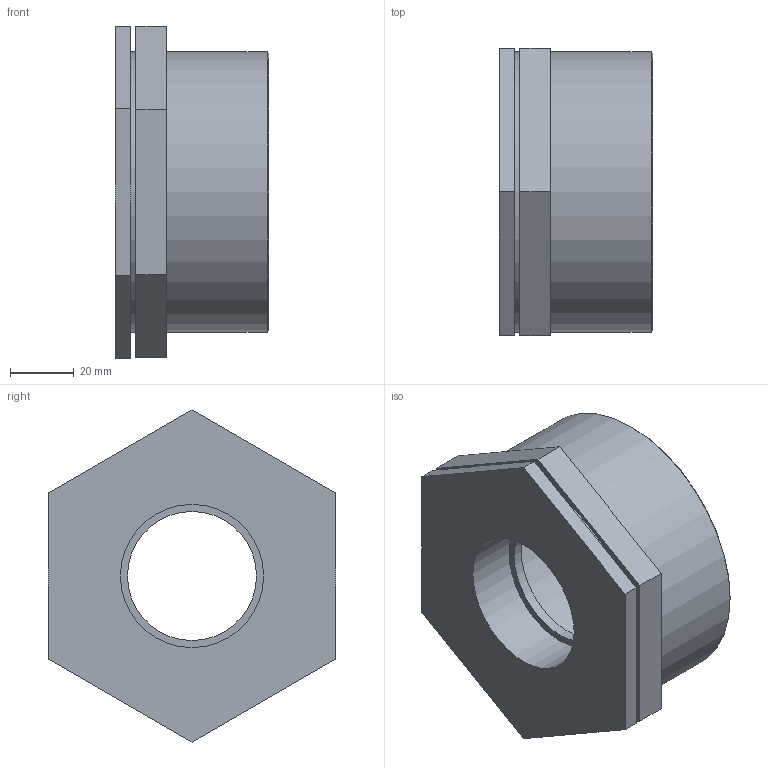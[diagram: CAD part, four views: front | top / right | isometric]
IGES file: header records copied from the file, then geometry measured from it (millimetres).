
Global section: file name: 050207030025_0502070300250A.ipt; native system: Autodesk Inventor 2015; preprocessor: unknown; author: KIM; date: 20170618.093150; units: millimetre
Bounding box: 48 x 90 x 103.92 mm (x, y, z)
Volume: 125785.6 mm3; surface area: 37787.7 mm2
Topology: 1 solids, 1 shells, 27 faces, 62 edges, 43 vertices
Faces by surface type: plane 20, revolution 4, cylinder 2, cone 1
Full cylindrical faces by diameter (mm): 87.884 x2
